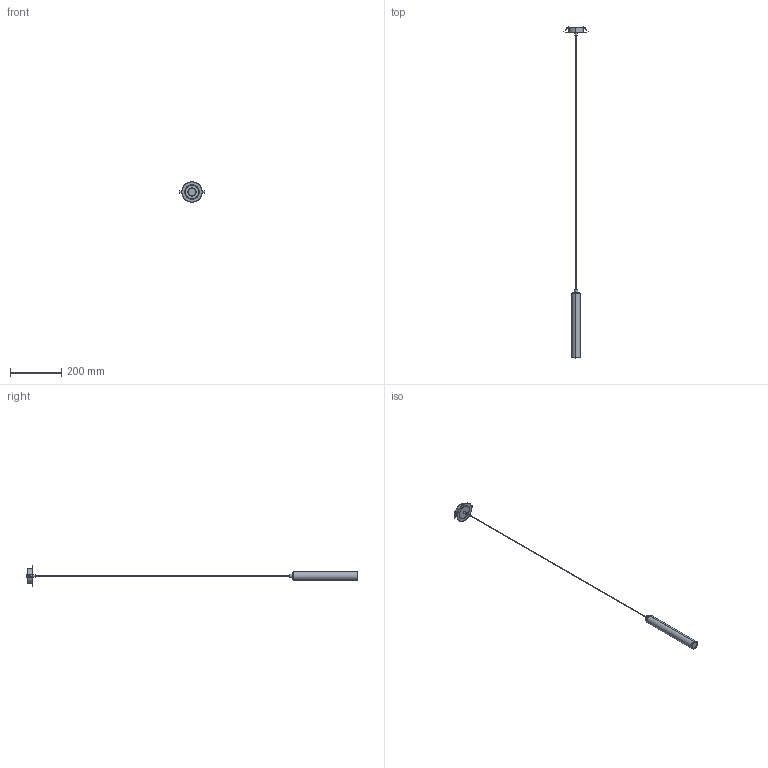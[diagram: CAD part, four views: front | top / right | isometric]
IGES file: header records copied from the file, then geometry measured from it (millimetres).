
Start section: SolidWorks IGES file using analytic representation for surfaces
Global section: file name: C:\Users\Agustin\Desktop\ANGELA\2026\ARQUITECTURAL\MIKU\3D\MIKU_empotrable.IGS; native system: SolidWorks 2023; preprocessor: SolidWorks 2023; author: Agustin; date: 260427.173036; units: millimetre
Bounding box: 100.36 x 1290.1 x 79 mm (x, y, z)
Surface area: 79662.1 mm2 (no closed solid volume)
Topology: 0 solids, 0 shells, 120 faces, 1992 edges, 1992 vertices
Faces by surface type: bspline 68, revolution 52
